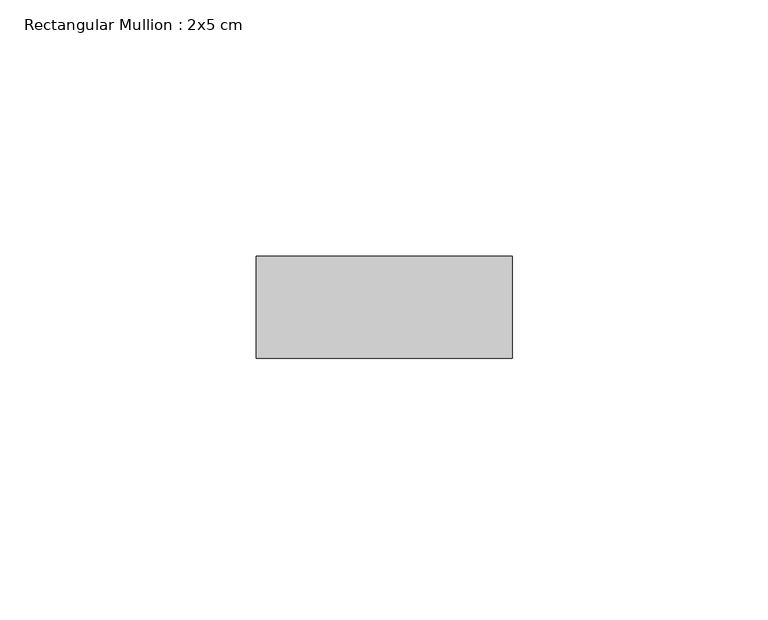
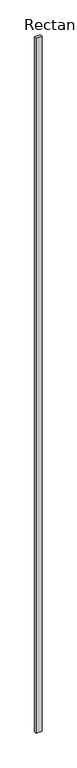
"""IFC4 building model written with IfcOpenShell, lengths in millimetres: member geometry, Rectangular Mullion : 2x5 cm."""

from ifc_helpers import new_model, si_unit, frame, origin, place, context, project, spatial, polyline, outline, extrude, source, transform, mapped, element, save


def rectangular_mullion_2x5_cm_67ed8de0(model_context):
    return source(origin(), model_context, "Body", "SweptSolid", [
        extrude(outline(polyline([(50.0, 20.0), (50.0, 0.0), (0.0, 0.0), (0.0, 20.0), (50.0, 20.0)])), frame((0.0, 0.0, -6229.3366916), z_axis=(0.0, 0.0, 1.0), x_axis=(1.0, 0.0, 0.0)), (0.0, 0.0, 1.0), 6229.3366916),
    ])


if __name__ == "__main__":
    model = new_model("IFC4")
    model_context = context("Model", 3, world=origin())
    ifc_project = project(units=[si_unit("LENGTHUNIT", "METRE", prefix="MILLI")], contexts=[model_context])
    site = spatial("IfcSite", under=ifc_project)
    building = spatial("IfcBuilding", under=site)
    placement = place(None, origin())
    rectangular_mullion_2x5_cm_shape = rectangular_mullion_2x5_cm_67ed8de0(model_context)
    element("IfcMember", 1, ObjectType="Rectangular Mullion : 2x5 cm", at=placement, inside=building, context=model_context, shape_type="MappedRepresentation", body=[
        mapped(rectangular_mullion_2x5_cm_shape, transform((0.0, 0.0, 0.0), x_axis=(1.0, 0.0, 0.0), y_axis=(0.0, 1.0, 0.0), z_axis=(0.0, 0.0, 1.0))),
    ])
    save(model, "model.ifc")
